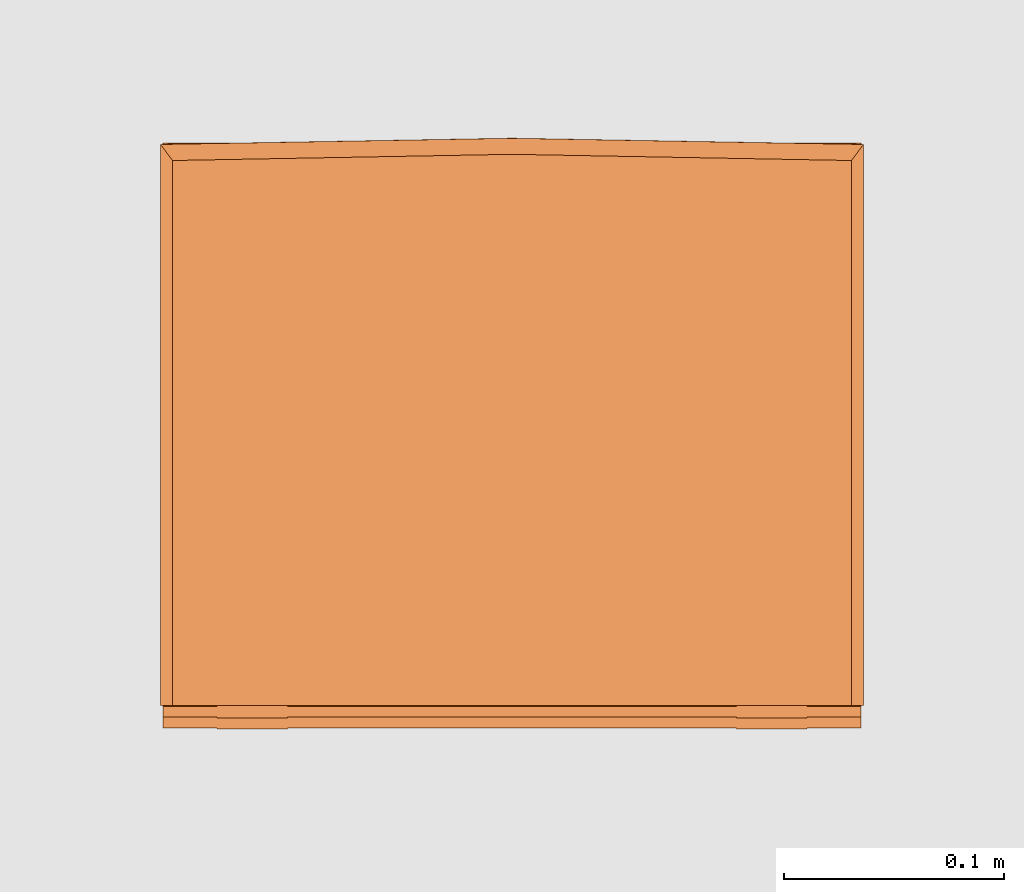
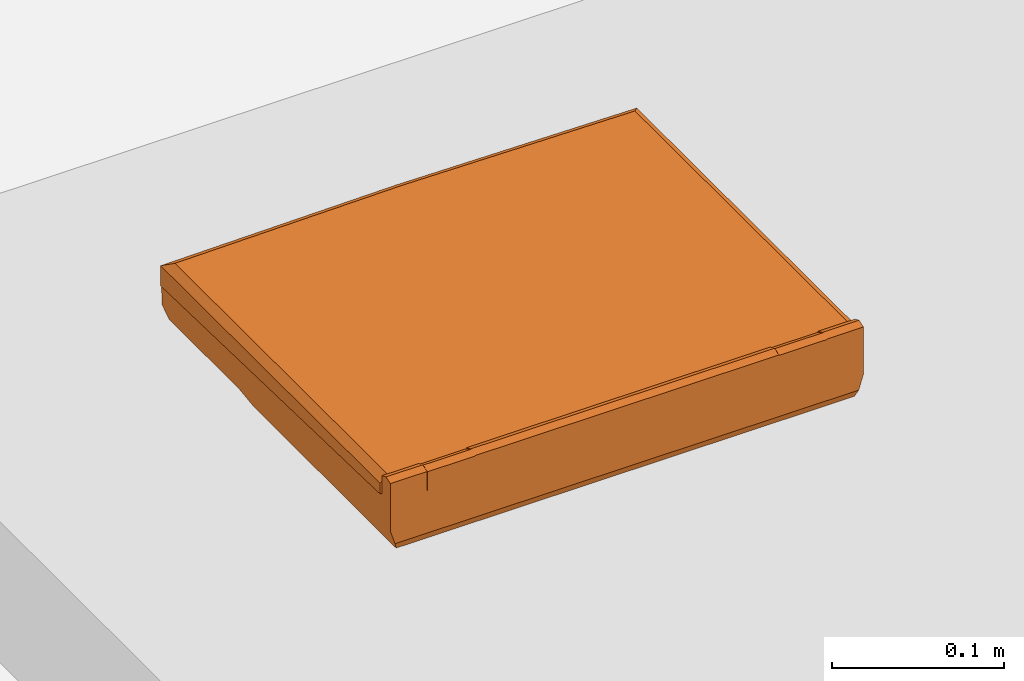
# One storey, part 40 of 40: 1 proxy.
"""IFC2X3 building model written with IfcOpenShell, lengths in metres."""

from ifc_helpers import new_model, entity, si_unit, converted_unit, derived_unit, direction, frame, origin, place, context, subcontext, project, spatial, face_set, surface_model, source, transform, mapped, type_object, type_shapes, element, save


model = new_model("IFC2X3")

# Units and contexts
model_context = context("Model", 3, precision=1e-05, world=origin(), true_north=direction((6.12303176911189e-17, 1.0)))
body_context = subcontext(model_context, "Body", "Model", "MODEL_VIEW")
ifc_project = project(units=[si_unit("LENGTHUNIT", "METRE"), si_unit("AREAUNIT", "SQUARE_METRE"), si_unit("VOLUMEUNIT", "CUBIC_METRE"), converted_unit("PLANEANGLEUNIT", "DEGREE", entity("IfcRatioMeasure", 0.0174532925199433), si_unit("PLANEANGLEUNIT", "RADIAN"), dimensions=[0, 0, 0, 0, 0, 0, 0]), si_unit("MASSUNIT", "GRAM", prefix="KILO"), derived_unit("MASSDENSITYUNIT", [(si_unit("MASSUNIT", "GRAM", prefix="KILO"), 1), (si_unit("LENGTHUNIT", "METRE"), -3)]), si_unit("TIMEUNIT", "SECOND"), si_unit("FREQUENCYUNIT", "HERTZ"), si_unit("THERMODYNAMICTEMPERATUREUNIT", "DEGREE_CELSIUS"), derived_unit("THERMALTRANSMITTANCEUNIT", [(si_unit("MASSUNIT", "GRAM", prefix="KILO"), 1), (si_unit("THERMODYNAMICTEMPERATUREUNIT", "KELVIN"), -1), (si_unit("TIMEUNIT", "SECOND"), -3)]), derived_unit("VOLUMETRICFLOWRATEUNIT", [(si_unit("LENGTHUNIT", "METRE"), 3), (si_unit("TIMEUNIT", "SECOND"), -1)]), si_unit("ELECTRICCURRENTUNIT", "AMPERE"), si_unit("ELECTRICVOLTAGEUNIT", "VOLT"), si_unit("POWERUNIT", "WATT"), si_unit("FORCEUNIT", "NEWTON", prefix="KILO"), si_unit("ILLUMINANCEUNIT", "LUX"), si_unit("LUMINOUSFLUXUNIT", "LUMEN"), si_unit("LUMINOUSINTENSITYUNIT", "CANDELA"), derived_unit("USERDEFINED", [(si_unit("MASSUNIT", "GRAM", prefix="KILO"), -1), (si_unit("LENGTHUNIT", "METRE"), -2), (si_unit("TIMEUNIT", "SECOND"), 3), (si_unit("LUMINOUSFLUXUNIT", "LUMEN"), 1)]), derived_unit("LINEARVELOCITYUNIT", [(si_unit("LENGTHUNIT", "METRE"), 1), (si_unit("TIMEUNIT", "SECOND"), -1)]), si_unit("PRESSUREUNIT", "PASCAL"), derived_unit("USERDEFINED", [(si_unit("LENGTHUNIT", "METRE"), -2), (si_unit("MASSUNIT", "GRAM", prefix="KILO"), 1), (si_unit("TIMEUNIT", "SECOND"), -2)])], contexts=[model_context])

# Site, building, storey, space
site_placement = place(None, origin())
site = spatial("IfcSite", under=ifc_project, at=site_placement, Name="Surface", CompositionType="ELEMENT")
building_placement = place(site_placement, origin())
building = spatial("IfcBuilding", under=site, at=building_placement, CompositionType="ELEMENT")
storey_placement = place(building_placement, origin())
storey = spatial("IfcBuildingStorey", under=building, at=storey_placement, Name="RDC", CompositionType="ELEMENT", Elevation=-1.0941605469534e-13)
space_placement = place(storey_placement, origin())
space = spatial("IfcSpace", under=storey, at=space_placement, Name="13", CompositionType="ELEMENT", InteriorOrExteriorSpace="INTERNAL")

# Proxy
building_element_proxy_type = type_object("IfcBuildingElementProxyType", Name="RPC Ordinateur portable", PredefinedType="NOTDEFINED")
shared_shape = source(origin(), body_context, "Body", "SurfaceModel", [
    surface_model("IfcFaceBasedSurfaceModel", [(-0.0852322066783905, 0.0668400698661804, 0.0318084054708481), (0.158429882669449, 0.167581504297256, 0.0282219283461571), (-0.158432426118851, 0.167581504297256, 0.0282219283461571), (0.101749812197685, -0.097731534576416, 0.0351332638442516), (0.101749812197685, -0.0879169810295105, 0.0351332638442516), (0.101749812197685, -0.097731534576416, 0.0484911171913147), (0.101749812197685, -0.0927963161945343, 0.0502665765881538), (0.101749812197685, -0.0879169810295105, 0.0481837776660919), (0.13382238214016, -0.0879169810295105, 0.0351332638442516), (0.13382238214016, -0.097729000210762, 0.0351332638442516), (0.13382238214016, -0.0879169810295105, 0.0481837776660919), (0.13382238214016, -0.0927963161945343, 0.0502665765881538), (0.13382238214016, -0.097731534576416, 0.0484911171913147), (-0.0852322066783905, 0.0531647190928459, 0.0319658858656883), (0.144881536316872, 0.0531647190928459, 0.0319658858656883), (0.144881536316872, -0.0606704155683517, 0.034190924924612), (0.158429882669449, -0.0879169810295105, 0.0351332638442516), (-0.146921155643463, -0.0743381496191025, 0.0342925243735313), (-0.0158851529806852, -0.0743381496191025, 0.0342925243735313), (-0.101749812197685, -0.0879169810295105, 0.0351332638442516), (-0.146921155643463, 0.0668400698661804, 0.0318084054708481), (-0.101749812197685, -0.097731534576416, 0.0351332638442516), (-0.101749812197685, -0.097731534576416, 0.0484911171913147), (-0.101749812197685, -0.0927963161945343, 0.0502665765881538), (-0.101749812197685, -0.0879169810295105, 0.0481837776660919), (-0.133824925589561, -0.0879169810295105, 0.0351332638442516), (-0.133824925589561, -0.097731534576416, 0.0351332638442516), (-0.133824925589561, -0.0879169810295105, 0.0481837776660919), (-0.133824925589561, -0.0927963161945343, 0.0502665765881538), (-0.133824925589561, -0.097731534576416, 0.0484911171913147), (-0.158432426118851, -0.0879169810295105, 0.0351332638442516), (-0.0158851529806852, -0.0606704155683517, 0.034190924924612), (0.142707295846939, -0.0584936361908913, 0.0293903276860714), (-0.0190347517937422, -0.0725753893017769, 0.0294919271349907), (-0.0190347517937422, -0.0584936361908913, 0.0293903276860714), (0.155285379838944, 0.0833297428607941, 0.00486917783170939), (-0.155285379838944, 0.0833297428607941, 0.00486917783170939), (0.155285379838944, 0.164050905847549, 0.00478535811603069), (-0.15528790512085, 0.164050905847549, 0.00478535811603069), (-0.153471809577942, 0.0690041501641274, 0.0), (0.153471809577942, 0.0690041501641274, 0.0), (0.153471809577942, -0.0958773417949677, 0.0), (-0.153471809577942, -0.0958773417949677, 0.0), (0.155285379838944, -0.097731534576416, 0.00486917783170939), (0.158429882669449, -0.097731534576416, 0.0149047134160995), (0.158429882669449, -0.097731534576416, 0.0484911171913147), (-0.155285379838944, -0.097731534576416, 0.00486917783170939), (-0.158432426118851, -0.097731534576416, 0.0149047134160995), (-0.158432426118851, -0.097731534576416, 0.0484911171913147), (0.158429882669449, -0.0927963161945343, 0.0502665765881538), (0.158429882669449, -0.0879169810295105, 0.0481837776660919), (-0.158432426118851, -0.0927963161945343, 0.0502665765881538), (-0.158432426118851, -0.0879169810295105, 0.0481837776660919), (-0.158620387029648, 0.166809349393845, 0.0149047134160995), (0.158620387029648, 0.166809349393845, 0.0149047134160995), (0.142707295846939, 0.0512901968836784, 0.0272541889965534), (-0.144746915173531, -0.0725753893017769, 0.0294919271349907), (-0.0874064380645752, 0.0512901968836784, 0.0272541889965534), (-0.0874064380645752, 0.0649655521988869, 0.0270992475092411), (-0.144746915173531, 0.0649655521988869, 0.0270992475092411), (-0.0218820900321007, -0.0554557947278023, 0.0351129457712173), (0.138374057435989, -0.0554557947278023, 0.0351129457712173), (0.138374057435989, 0.0484428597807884, 0.0331266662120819), (-0.0909268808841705, 0.0484428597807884, 0.0331266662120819), (-0.0909268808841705, 0.0621182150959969, 0.0329717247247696), (-0.141226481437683, 0.0621182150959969, 0.0329717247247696), (-0.141226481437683, -0.0695375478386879, 0.0352170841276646), (-0.0218820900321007, -0.0695375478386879, 0.0352170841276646), (0.0, -0.0789884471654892, 0.0387774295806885), (0.0, 0.148319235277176, 0.0346999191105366), (0.145691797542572, 0.148319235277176, 0.0346999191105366), (0.145691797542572, -0.0789898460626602, 0.0387725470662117), (-0.145110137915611, 0.148319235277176, 0.0346999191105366), (-0.145110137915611, -0.0789898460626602, 0.0387725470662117), (0.0, 0.149530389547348, 0.0315517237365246), (0.147906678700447, 0.149530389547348, 0.0315517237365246), (0.147906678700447, -0.0805408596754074, 0.03529867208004), (0.0, -0.0805419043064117, 0.0353042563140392), (-0.147325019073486, 0.149530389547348, 0.0315517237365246), (-0.147325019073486, -0.0805408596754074, 0.03529867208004), (0.0, 0.169836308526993, 0.0280755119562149), (0.0, 0.169793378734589, 0.042338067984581), (0.15944335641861, 0.166975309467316, 0.0426652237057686), (0.15944335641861, 0.167017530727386, 0.0284002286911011), (-0.15944335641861, 0.166975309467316, 0.0426652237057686), (-0.15944335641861, 0.167017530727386, 0.0284002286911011), (0.0, 0.162508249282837, 0.0465303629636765), (0.154017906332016, 0.159689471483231, 0.0468550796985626), (0.0, -0.0874705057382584, 0.0471443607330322), (0.101749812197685, -0.0874705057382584, 0.0471443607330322), (0.133733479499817, -0.0874705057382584, 0.0471443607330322), (0.101749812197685, -0.0932696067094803, 0.0503265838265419), (0.101749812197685, -0.098205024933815, 0.0485683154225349), (0.13382238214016, -0.0982036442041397, 0.048554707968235), (0.13382238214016, -0.0932696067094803, 0.0503265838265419), (0.154017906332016, -0.0874705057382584, 0.0471443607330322), (0.15944335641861, -0.0874720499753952, 0.042964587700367), (-0.154017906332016, 0.159689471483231, 0.0468550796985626), (-0.101749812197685, -0.0874705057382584, 0.0471443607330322), (-0.133733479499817, -0.0874705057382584, 0.0471443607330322), (-0.101749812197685, -0.0932696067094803, 0.0503265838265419), (-0.13382238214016, -0.0982036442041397, 0.048554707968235), (-0.101749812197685, -0.098205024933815, 0.0485683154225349), (-0.13382238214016, -0.0932696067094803, 0.0503265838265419), (-0.154017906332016, -0.0874705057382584, 0.0471443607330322), (-0.15944335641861, -0.0874720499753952, 0.042964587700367), (0.101749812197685, -0.0982072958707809, 0.0351986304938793), (0.13382238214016, -0.0982072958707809, 0.0351986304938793), (0.101749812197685, -0.087473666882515, 0.035402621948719), (0.0, -0.0874750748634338, 0.0353977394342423), (-0.13382238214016, -0.0982072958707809, 0.0351986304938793), (-0.101749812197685, -0.0982072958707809, 0.0351986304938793), (-0.101749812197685, -0.087473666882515, 0.035402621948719), (0.133733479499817, -0.087473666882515, 0.035402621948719), (0.15944335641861, -0.087473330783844, 0.0353945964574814), (-0.15944335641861, -0.087473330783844, 0.0353945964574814), (-0.133733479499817, -0.087473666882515, 0.035402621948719), (0.156943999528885, 0.164748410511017, 0.0284854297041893), (0.15944335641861, 0.0697214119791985, 0.0310754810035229), (0.0, 0.167566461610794, 0.0281582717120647), (0.155501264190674, 0.162872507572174, 0.0315362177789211), (0.0, 0.165688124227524, 0.0312097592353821), (-0.156943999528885, 0.164748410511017, 0.0284854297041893), (-0.15944335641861, 0.0697214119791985, 0.0310754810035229), (-0.155501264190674, 0.162872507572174, 0.0315362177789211)], [face_set([[[0, 1, 2]], [[3, 4, 5]], [[5, 4, 6]], [[6, 4, 7]], [[8, 4, 9]], [[9, 4, 3]], [[10, 8, 11]], [[11, 8, 12]], [[12, 8, 9]], [[13, 14, 0]], [[14, 1, 0]], [[15, 4, 8]], [[1, 14, 16]], [[15, 8, 16]], [[17, 4, 18]], [[19, 4, 17]], [[0, 2, 20]], [[21, 22, 19]], [[22, 23, 19]], [[23, 24, 19]], [[25, 26, 19]], [[26, 21, 19]], [[27, 28, 25]], [[28, 29, 25]], [[29, 26, 25]], [[20, 30, 17]], [[17, 25, 19]], [[2, 30, 20]], [[17, 30, 25]], [[18, 4, 15]], [[15, 31, 18]], [[32, 33, 34]], [[35, 36, 37]], [[37, 36, 38]], [[39, 36, 40]], [[40, 36, 35]], [[41, 42, 40]], [[40, 42, 39]], [[43, 9, 3]], [[9, 43, 44]], [[44, 45, 12]], [[12, 9, 44]], [[43, 46, 41]], [[41, 46, 42]], [[3, 21, 46]], [[3, 46, 43]], [[5, 22, 21]], [[5, 21, 3]], [[46, 21, 26]], [[26, 47, 46]], [[47, 29, 48]], [[29, 47, 26]], [[49, 50, 10]], [[10, 11, 49]], [[7, 24, 23]], [[7, 23, 6]], [[51, 27, 52]], [[27, 51, 28]], [[45, 49, 11]], [[11, 12, 45]], [[6, 23, 22]], [[6, 22, 5]], [[48, 28, 51]], [[28, 48, 29]], [[2, 1, 53]], [[53, 1, 54]], [[53, 54, 38]], [[38, 54, 37]], [[53, 38, 36]], [[47, 51, 30]], [[51, 47, 48]], [[52, 30, 51]], [[36, 42, 46]], [[2, 47, 30]], [[53, 46, 47]], [[42, 36, 39]], [[47, 2, 53]], [[46, 53, 36]], [[50, 16, 8]], [[8, 10, 50]], [[4, 19, 24]], [[4, 24, 7]], [[52, 25, 30]], [[25, 52, 27]], [[54, 35, 37]], [[44, 16, 49]], [[49, 45, 44]], [[50, 49, 16]], [[35, 43, 41]], [[1, 16, 44]], [[54, 44, 43]], [[41, 40, 35]], [[44, 54, 1]], [[43, 35, 54]], [[55, 32, 15]], [[17, 18, 33]], [[33, 56, 17]], [[14, 13, 57]], [[57, 55, 14]], [[13, 0, 58]], [[58, 57, 13]], [[0, 20, 59]], [[59, 58, 0]], [[20, 17, 56]], [[56, 59, 20]], [[31, 15, 32]], [[32, 34, 31]], [[33, 18, 31]], [[31, 34, 33]], [[56, 34, 33]], [[14, 15, 16]], [[15, 14, 55]], [[60, 61, 62]], [[60, 62, 63]], [[63, 64, 65]], [[66, 63, 65]], [[32, 55, 62]], [[62, 61, 32]], [[34, 32, 61]], [[61, 60, 34]], [[55, 57, 63]], [[63, 62, 55]], [[57, 58, 64]], [[64, 63, 57]], [[58, 59, 65]], [[65, 64, 58]], [[59, 56, 66]], [[66, 65, 59]], [[66, 60, 63]], [[67, 66, 56]], [[56, 33, 67]], [[34, 60, 67]], [[67, 33, 34]], [[66, 67, 60]], [[68, 69, 70]], [[68, 70, 71]], [[68, 72, 69]], [[68, 73, 72]], [[74, 75, 70]], [[70, 69, 74]], [[76, 77, 68]], [[68, 71, 76]], [[75, 76, 71]], [[71, 70, 75]], [[74, 72, 78]], [[72, 74, 69]], [[79, 68, 77]], [[68, 79, 73]], [[78, 73, 79]], [[73, 78, 72]], [[80, 81, 82]], [[80, 82, 83]], [[80, 84, 81]], [[80, 85, 84]], [[81, 86, 87]], [[81, 87, 82]], [[86, 88, 89]], [[86, 89, 87]], [[87, 89, 90]], [[91, 92, 93]], [[91, 93, 94]], [[87, 90, 95]], [[96, 87, 95]], [[89, 94, 90]], [[89, 91, 94]], [[96, 82, 87]], [[81, 97, 86]], [[81, 84, 97]], [[86, 98, 88]], [[86, 97, 98]], [[97, 99, 98]], [[100, 101, 102]], [[100, 103, 101]], [[99, 97, 104]], [[105, 104, 97]], [[98, 99, 103]], [[98, 103, 100]], [[105, 97, 84]], [[92, 106, 107]], [[92, 107, 93]], [[91, 89, 92]], [[92, 89, 106]], [[106, 89, 108]], [[89, 88, 108]], [[108, 88, 109]], [[102, 110, 111]], [[102, 101, 110]], [[100, 102, 98]], [[102, 111, 98]], [[111, 112, 98]], [[98, 112, 88]], [[112, 109, 88]], [[90, 113, 114]], [[90, 114, 96]], [[94, 93, 90]], [[90, 93, 113]], [[113, 93, 107]], [[90, 96, 95]], [[99, 115, 116]], [[99, 105, 115]], [[103, 99, 101]], [[99, 116, 101]], [[116, 110, 101]], [[99, 104, 105]], [[106, 108, 113]], [[106, 113, 107]], [[80, 83, 117]], [[108, 109, 77]], [[77, 76, 108]], [[113, 108, 76]], [[118, 114, 76]], [[113, 76, 114]], [[117, 119, 80]], [[76, 75, 118]], [[117, 118, 120]], [[74, 121, 120]], [[74, 120, 75]], [[117, 120, 121]], [[117, 121, 119]], [[118, 75, 120]], [[83, 118, 117]], [[111, 116, 112]], [[111, 110, 116]], [[80, 122, 85]], [[112, 77, 109]], [[77, 112, 79]], [[116, 79, 112]], [[123, 79, 115]], [[115, 79, 116]], [[122, 80, 119]], [[79, 123, 78]], [[122, 124, 123]], [[74, 124, 121]], [[74, 78, 124]], [[122, 121, 124]], [[122, 119, 121]], [[123, 124, 78]], [[85, 122, 123]], [[115, 84, 123]], [[115, 105, 84]], [[123, 84, 85]], [[114, 118, 82]], [[114, 82, 96]], [[118, 83, 82]]])]),
])
type_shapes(building_element_proxy_type, [shared_shape])
proxy_placement = place(space_placement, frame((7.03160043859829, 6.49230031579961, 0.369999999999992)))
element("IfcBuildingElementProxy", 1, at=proxy_placement, inside=space, type_object=building_element_proxy_type, Name="RPC Ordinateur portable:RPC Ordinateur portable", ObjectType="RPC Ordinateur portable", context=body_context, shape_type="MappedRepresentation", body=[
    mapped(shared_shape, transform((0.0, 0.0, 0.0), scale=1.0)),
])

save(model, "model.ifc")
